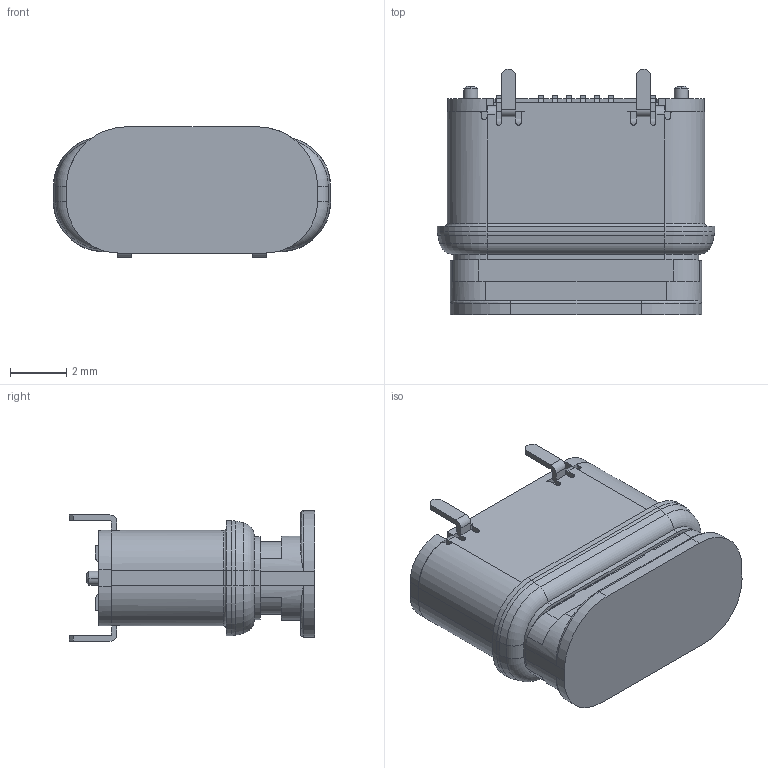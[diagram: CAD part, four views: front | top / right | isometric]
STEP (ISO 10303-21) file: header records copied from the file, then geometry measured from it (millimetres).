
FILE_DESCRIPTION (( 'STEP AP214' ), '1' );
FILE_NAME ('GT-USB-7074A01.STEP', '2024-05-27T02:29:59', ( '' ), ( '' ), 'SwSTEP 2.0', 'SolidWorks 2023', '' );
FILE_SCHEMA (( 'AUTOMOTIVE_DESIGN' ));
Length unit declared in the file: millimetre
Products named in the file (4): USB-CF-SMT-072-HB-0523.STEP; GT-USB-7074A01; USB-CF-SMT-072-HB-0208_1.STEP; cover-HUB144L_1.STEP
Assembly tree (3 placements, depth 3):
  GT-USB-7074A01
    USB-CF-SMT-072-HB-0523.STEP
      USB-CF-SMT-072-HB-0208_1.STEP
      cover-HUB144L_1.STEP
Bounding box: 9.88 x 8.75 x 4.65 mm (x, y, z)
Volume: 190.3 mm3; surface area: 894.5 mm2
Topology: 3 solids, 3 shells, 1131 faces, 3200 edges, 2062 vertices
Faces by surface type: plane 757, cylinder 235, bspline 80, torus 35, cone 24
Entity records: 40173 total; most frequent: CARTESIAN_POINT 11059, ORIENTED_EDGE 6400, DIRECTION 5598, EDGE_CURVE 3200, VECTOR 2416, LINE 2416, VERTEX_POINT 2062, AXIS2_PLACEMENT_3D 1591
